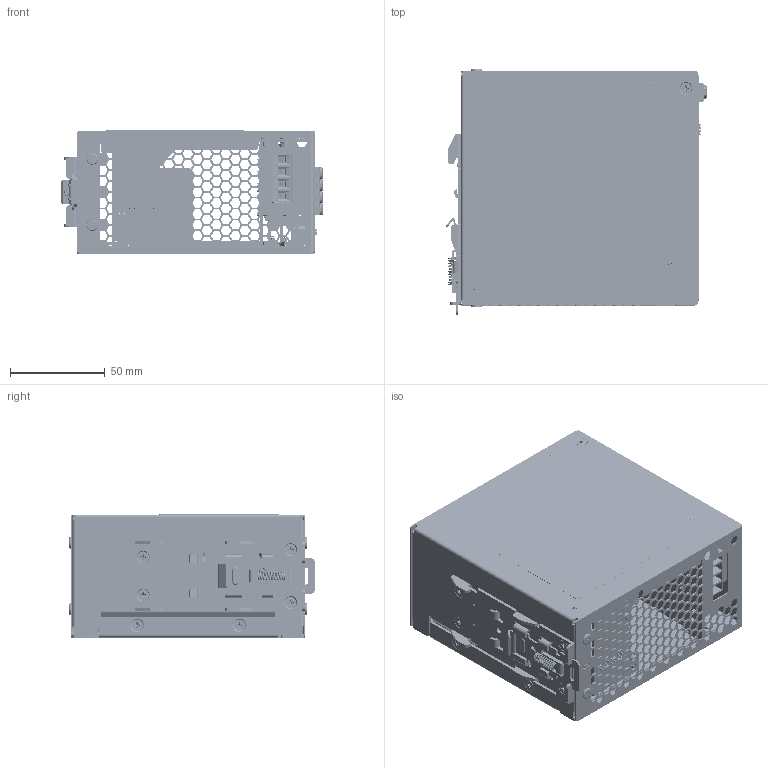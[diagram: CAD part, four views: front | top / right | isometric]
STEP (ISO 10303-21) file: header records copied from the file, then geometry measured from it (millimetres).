
FILE_DESCRIPTION((''),'2;1');
FILE_NAME('DRF-48V480W3GBA_ASM','2024-08-06T',('Nut.Phor'),(''),'CREO PARAMETRIC BY PTC INC, 2015080','CREO PARAMETRIC BY PTC INC, 2015080','');
FILE_SCHEMA(('CONFIG_CONTROL_DESIGN'));
Products named in the file (85): 337555910000_8_1_1_1; 337555910000_8_2_1_1; 337555910000_8_3_1_1; 337555910000_8_ASM_1_ASM_1_ASM; 337555910000-STUD_6-32_3MM_10_1; 337555910000-STUD_6-32_NORMAL_2; 337555910000_ASM_36_ASM_1_ASM_1_ASM; 3240030TPS01_18_1_1_1; 3240030TPS01_18_2_1_1; 3240030TPS01_18_3_1_1; 3240030TPS01_18_ASM_1_ASM_1_ASM; ADC-127_3_1_1; ADC-180_HSK2MM_10_1_1; 334821140000_BODY_2_1_1; 334821140000_A_C098_CIM_1_1_1; 334821140000_ASM_1_ASM_1_ASM_1_ASM; HSK1_2MM_ASM_33_ASM_2_ASM_1_ASM; 31052637XX_1_1_1; ADC-128_16_1_1; LAYOUT_ADC-128_2_1_1; LAYOUT_ADC-179_153_1_1; 4PIN_1_3_1_1; KP04000306DAG_ASM_16_ASM_1_ASM__ASM; 3467587200_BUS_SPCC_2_1_1; 3074843834_A2003WR0-1AGX2PA-6T_; EE_F2_2_1_1; EE_F3_2_1_1; ASSY-ADC-179_ASM_455_ASM_5_ASM__ASM; ADC-131_27_1_1; LAYOUT_ADC-188_2_1_1; 307195156G_A1_1_1_1; 307195156G_A2_AF0_1_1_1; 307195156G_CN62_ASM_1_ASM_1_ASM_ASM; 3460375301-V3_2_1_1; 3470422400_2_1_1; 3074842634_A2003WR0-1AGX6PA-6T_; CH81-TH2_86__ANY_1_2_1_1; CH81-TH1_86__ANY_1_2_1_1; CH81-TH1_86__ANY_1_AF0_2_1_1; CH81_BASE_08P_ANY_1_2_1_1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
Assembly tree (121 placements, depth 8):
  DRF-48V480W3GBA_ASM
    DRF-48V480W3GBA__ASM_11_ASM
      337555910000_ASM_36_ASM_1_ASM_1_ASM
        337555910000_8_ASM_1_ASM_1_ASM
          337555910000_8_1_1_1
          337555910000_8_2_1_1
          337555910000_8_3_1_1
        337555910000-STUD_6-32_3MM_10_1  x2
        337555910000-STUD_6-32_NORMAL_2
      3240030TPS01_18_ASM_1_ASM_1_ASM
        3240030TPS01_18_1_1_1
        3240030TPS01_18_2_1_1
        3240030TPS01_18_3_1_1
      ASSY_ADC-180_ASM_189_ASM_3_ASM__ASM
        ADC-127_3_1_1
        ADC-180_HSK2MM_10_1_1
        HSK1_2MM_ASM_33_ASM_2_ASM_1_ASM
          334821140000_ASM_1_ASM_1_ASM_1_ASM
            334821140000_BODY_2_1_1
            334821140000_A_C098_CIM_1_1_1
        31052637XX_1_1_1
        ASSY-ADC-179_ASM_455_ASM_5_ASM__ASM
          ADC-128_16_1_1
          LAYOUT_ADC-128_2_1_1
          LAYOUT_ADC-179_153_1_1
          KP04000306DAG_ASM_16_ASM_1_ASM__ASM
            4PIN_1_3_1_1
          3467587200_BUS_SPCC_2_1_1  x2
          3074843834_A2003WR0-1AGX2PA-6T_  x3
          EE_F2_2_1_1
          EE_F3_2_1_1  x2
        ASSY_ADC-188_ASM_27_ASM_1_ASM_1_ASM
          ADC-131_27_1_1
          LAYOUT_ADC-188_2_1_1
          307195156G_CN62_ASM_1_ASM_1_ASM_ASM
            307195156G_A1_1_1_1
            307195156G_A2_AF0_1_1_1
          3460375301-V3_2_1_1
          3470422400_2_1_1  x2
          3074842634_A2003WR0-1AGX6PA-6T_
          CH81082HA86-NH-20211222_ASM_NEW_ASM
            CH81082HA86-NH-20211222_ASM_AF0_ASM
              CH81082HA86-NH-20211222_ANY_AF0_ASM
                CH81-TH2_86__ANY_1_2_1_1  x4
                CH81-TH1_86__ANY_1_2_1_1  x3
                CH81-TH1_86__ANY_1_AF0_2_1_1
                CH81_BASE_08P_ANY_1_2_1_1
      3103200600_6-32_L6_1_ASM_1_ASM__ASM  x3
        3103200600_6-32_L6_1_1_1_1
        3103200600_6-32_L6_1_2_1_1
      3100000600-1_27_1_1  x12
      ASSY_MAIN-BOARD_ASM_647_ASM_6_A_ASM
        PWB_MAIN-BOARD_70_1_1
        3461381401_1_1_1  x4
        LED_GRN_1_1_1
        RES_VR_0604103518_1_1_1
        307608646G_ASM_1_ASM_1_ASM_1_ASM
          307608646G_A1_1_1_1
          307608646G_A2_1_1_1
          307608646G_A3_1_1_1
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Bounding box: 138.04 x 130 x 65.05 mm (x, y, z)
Volume: 172754 mm3; surface area: 347054.3 mm2
Topology: 96 solids, 97 shells, 13095 faces, 35684 edges, 23025 vertices
Faces by surface type: plane 8895, cylinder 2625, extrusion 565, bspline 416, cone 332, torus 246, sphere 16
Entity records: 434138 total; most frequent: CARTESIAN_POINT 96228, ORIENTED_EDGE 54540, DIRECTION 48538, EDGE_CURVE 27270, PRESENTATION_STYLE_ASSIGNMENT 24102, STYLED_ITEM 21944, VECTOR 21854, CURVE_STYLE 21615
